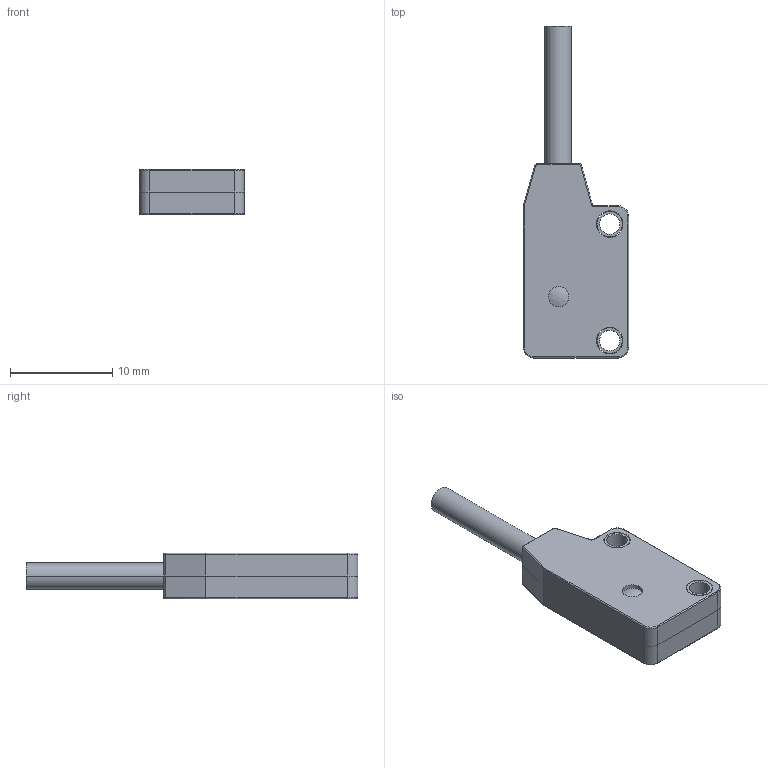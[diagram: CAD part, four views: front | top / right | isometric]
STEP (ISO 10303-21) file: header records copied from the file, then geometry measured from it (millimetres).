
FILE_DESCRIPTION((''),'2;1');
FILE_NAME('SX-11N1_FASHE-20180307_ASM','2018-08-08T13:58:26',('Administrator'),(''),'CREO PARAMETRIC BY PTC INC, 2016390','CREO PARAMETRIC BY PTC INC, 2016390','');
FILE_SCHEMA(('CONFIG_CONTROL_DESIGN'));
Length unit declared in the file: millimetre
Products named in the file (7): 4960; 4958; FS; DENG; SX-13N1_LEN2018_4_BAMO2_5; TONGZHU; SX-11N1_FASHE-20180307_ASM
Assembly tree (7 placements, depth 2):
  SX-11N1_FASHE-20180307_ASM
    4960
    4958
    FS
    DENG
    SX-13N1_LEN2018_4_BAMO2_5
    TONGZHU  x2
Bounding box: 10.3 x 32.5 x 4.5 mm (x, y, z)
Volume: 660 mm3; surface area: 1808 mm2
Topology: 7 solids, 8 shells, 315 faces, 800 edges, 526 vertices
Faces by surface type: plane 227, cylinder 58, torus 19, cone 6, sphere 4, bspline 1
Entity records: 9521 total; most frequent: CARTESIAN_POINT 1705, DIRECTION 1587, ORIENTED_EDGE 1572, EDGE_CURVE 786, VECTOR 617, LINE 617, VERTEX_POINT 518, AXIS2_PLACEMENT_3D 485
